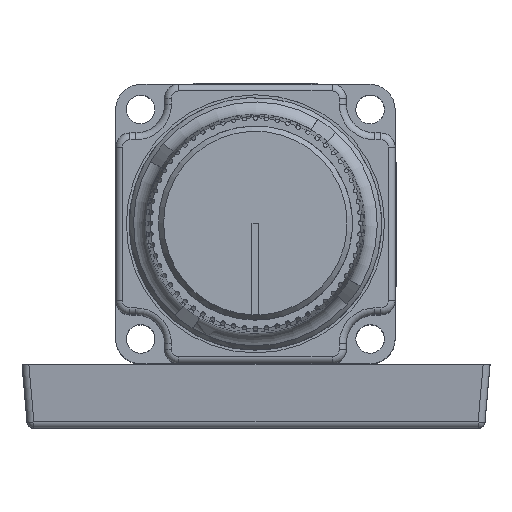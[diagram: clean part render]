
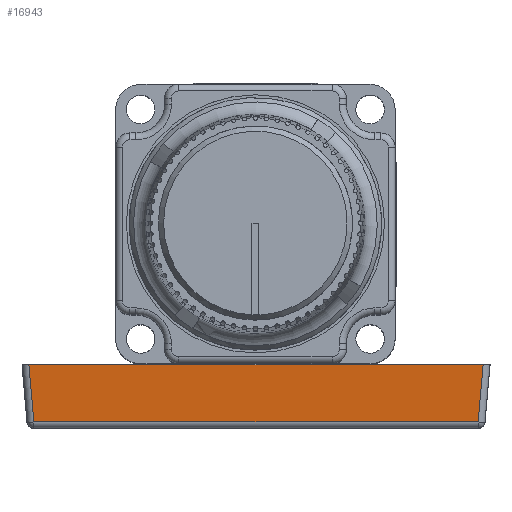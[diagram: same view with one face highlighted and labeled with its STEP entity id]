
A CAD part, top view. The second image highlights one B-rep face of the part: STEP entity #16943.
In plain terms, the highlighted planar face has unit normal (0, -0.087, 0.996).
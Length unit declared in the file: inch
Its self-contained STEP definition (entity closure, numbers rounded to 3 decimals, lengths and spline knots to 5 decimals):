
#958=PLANE('',#18890);
#1876=FACE_OUTER_BOUND('',#2875,.T.);
#2875=EDGE_LOOP('',(#14647,#14648,#14649,#14650));
#4883=LINE('',#36270,#6057);
#4886=LINE('',#36283,#6060);
#4906=LINE('',#36427,#6080);
#4943=LINE('',#36516,#6117);
#6057=VECTOR('',#23683,0.3937);
#6060=VECTOR('',#23698,0.3937);
#6080=VECTOR('',#23798,0.3937);
#6117=VECTOR('',#23891,0.3937);
#7564=VERTEX_POINT('',#36263);
#7566=VERTEX_POINT('',#36268);
#7567=VERTEX_POINT('',#36273);
#7569=VERTEX_POINT('',#36279);
#9882=EDGE_CURVE('',#7566,#7564,#4883,.T.);
#9889=EDGE_CURVE('',#7567,#7569,#4886,.T.);
#9933=EDGE_CURVE('',#7564,#7567,#4906,.T.);
#9978=EDGE_CURVE('',#7566,#7569,#4943,.T.);
#14647=ORIENTED_EDGE('',*,*,#9882,.F.);
#14648=ORIENTED_EDGE('',*,*,#9978,.T.);
#14649=ORIENTED_EDGE('',*,*,#9889,.F.);
#14650=ORIENTED_EDGE('',*,*,#9933,.F.);
#16943=ADVANCED_FACE('',(#1876),#958,.T.);
#18890=AXIS2_PLACEMENT_3D('',#36515,#23889,#23890);
#23683=DIRECTION('',(-0.087,-0.992,-0.087));
#23698=DIRECTION('',(-0.087,0.992,0.087));
#23798=DIRECTION('',(-1.,0.,0.));
#23889=DIRECTION('center_axis',(0.,-0.087,0.996));
#23890=DIRECTION('ref_axis',(1.,0.,0.));
#23891=DIRECTION('',(-1.,0.,0.));
#36263=CARTESIAN_POINT('',(0.33887,0.39124,-0.68479));
#36268=CARTESIAN_POINT('',(0.36062,0.63985,-0.66304));
#36270=CARTESIAN_POINT('',(0.36062,0.63985,-0.66304));
#36273=CARTESIAN_POINT('',(-1.59705,0.39124,-0.68479));
#36279=CARTESIAN_POINT('',(-1.6188,0.63985,-0.66304));
#36283=CARTESIAN_POINT('',(-1.59705,0.39124,-0.68479));
#36427=CARTESIAN_POINT('',(0.33887,0.39124,-0.68479));
#36515=CARTESIAN_POINT('Origin',(-0.62909,0.39084,-0.68482));
#36516=CARTESIAN_POINT('',(0.36062,0.63985,-0.66304));
